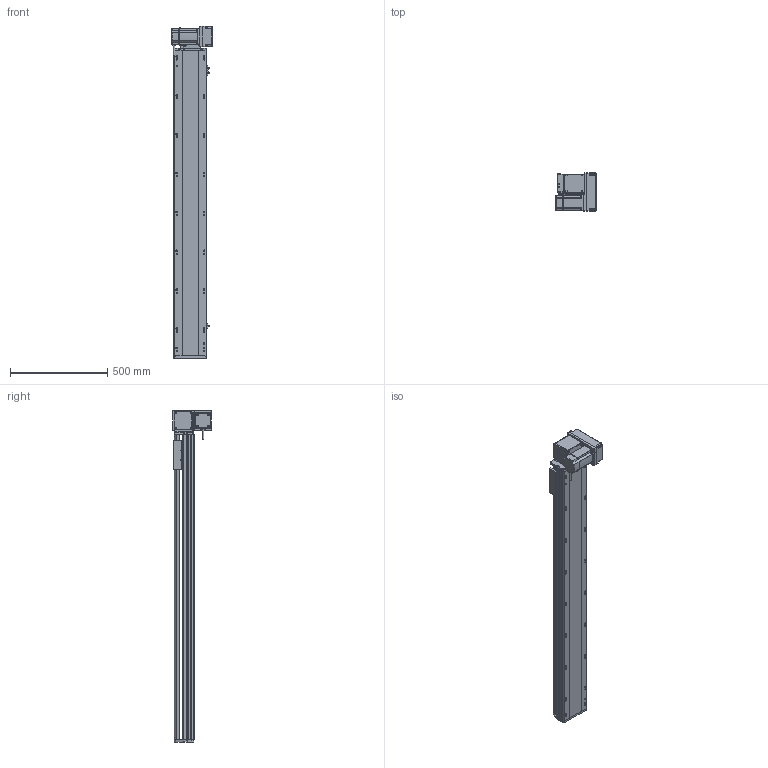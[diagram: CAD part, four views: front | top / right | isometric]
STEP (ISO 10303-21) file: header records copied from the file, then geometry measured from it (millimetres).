
FILE_DESCRIPTION (( 'STEP AP214' ), '1' );
FILE_NAME ('RTB17S-XX-1300-RM-M75-C4.STEP', '2025-12-12T02:07:48', ( '' ), ( '' ), 'SwSTEP 2.0', 'SolidWorks 2018', '' );
FILE_SCHEMA (( 'AUTOMOTIVE_DESIGN' ));
Length unit declared in the file: millimetre
Products named in the file (15): RTB22S-GY-018P^RTB17S-RM-々湍釱蚾饜-750W_RTB17S-XX-XX-RM-M75-C4; RTB17S-L-007奻裔^RTB17S-XX-XX-RM-M75-C4; RTB22S-GY-017P^RTB17S-RM-々湍釱蚾饜-750W_RTB17S-XX-XX-RM-M75-C4; RTB22S-GY-008-M75--萇儂啣^RTB17S-RM-々湍釱蚾饜-750W_RTB17S-XX-XX-RM-M75-C4; RTH13-BL-012覜茼え俋离^RTB17S-賑釱_RTB17S-XX-XX-RM-M75-C4; RTB17S-賑釱^RTB17S-XX-XX-RM-M75-C4; RTB17S-XX-1300-RM-M75-C4; RTB22S-GY-005P^RTB17S-RM-々湍釱蚾饜-750W_RTB17S-XX-XX-RM-M75-C4; RTB17S-L-004-賑釱^RTB17S-賑釱_RTB17S-XX-XX-RM-M75-C4; EE672^RTB17S-XX-XX-RM-M75-C4; RTB17S-L-014-T20-P75--々湍釱^RTB17S-RM-々湍釱蚾饜-750W_RTB17S-XX-XX-RM-M75-C4; RTB17S-RM-々湍釱蚾饜-750W^RTB17S-XX-XX-RM-M75-C4; RTB17-R-011菁釱^RTB17S-XX-XX-RM-M75-C4; RTB17S-L-001-耜醱啣^RTB17S-XX-XX-RM-M75-C4; 750W萇儂^RTB17S-XX-XX-RM-M75-C4
Assembly tree (17 placements, depth 3):
  RTB17S-XX-1300-RM-M75-C4
    RTB17-R-011菁釱^RTB17S-XX-XX-RM-M75-C4
    EE672^RTB17S-XX-XX-RM-M75-C4  x3
    RTB17S-L-001-耜醱啣^RTB17S-XX-XX-RM-M75-C4
    RTB17S-賑釱^RTB17S-XX-XX-RM-M75-C4
      RTB17S-L-004-賑釱^RTB17S-賑釱_RTB17S-XX-XX-RM-M75-C4
      RTH13-BL-012覜茼え俋离^RTB17S-賑釱_RTB17S-XX-XX-RM-M75-C4
    RTB17S-L-007奻裔^RTB17S-XX-XX-RM-M75-C4
    750W萇儂^RTB17S-XX-XX-RM-M75-C4
    RTB17S-RM-々湍釱蚾饜-750W^RTB17S-XX-XX-RM-M75-C4
      RTB17S-L-014-T20-P75--々湍釱^RTB17S-RM-々湍釱蚾饜-750W_RTB17S-XX-XX-RM-M75-C4
      RTB22S-GY-005P^RTB17S-RM-々湍釱蚾饜-750W_RTB17S-XX-XX-RM-M75-C4
      RTB22S-GY-017P^RTB17S-RM-々湍釱蚾饜-750W_RTB17S-XX-XX-RM-M75-C4  x2
      RTB22S-GY-008-M75--萇儂啣^RTB17S-RM-々湍釱蚾饜-750W_RTB17S-XX-XX-RM-M75-C4
      RTB22S-GY-018P^RTB17S-RM-々湍釱蚾饜-750W_RTB17S-XX-XX-RM-M75-C4
Bounding box: 207.4 x 200 x 1707.5 mm (x, y, z)
Volume: 14073865.6 mm3; surface area: 2440317.1 mm2
Topology: 17 solids, 17 shells, 2121 faces, 5890 edges, 3806 vertices
Faces by surface type: plane 974, cylinder 731, bspline 294, cone 110, sphere 8, torus 4
Entity records: 59638 total; most frequent: CARTESIAN_POINT 17554, ORIENTED_EDGE 8624, DIRECTION 8042, EDGE_CURVE 4312, AXIS2_PLACEMENT_3D 2826, VERTEX_POINT 2810, VECTOR 2390, LINE 2390
